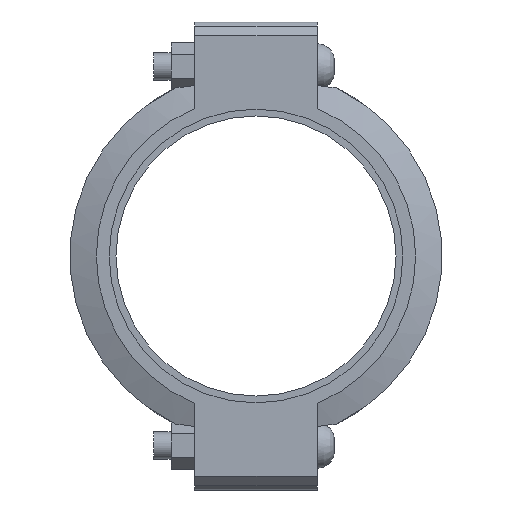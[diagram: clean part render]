
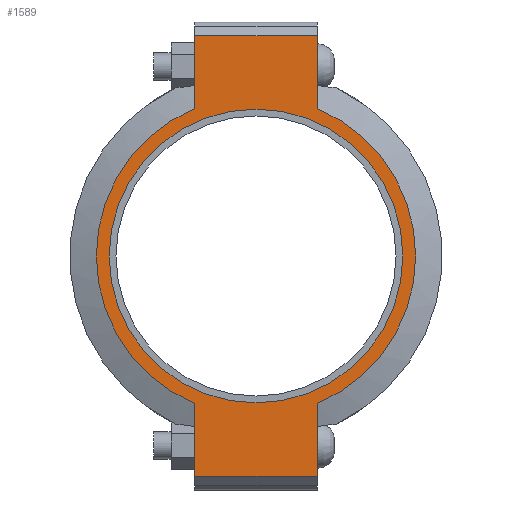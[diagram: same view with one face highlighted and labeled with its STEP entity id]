
A CAD part, left-side view. The second image highlights one B-rep face of the part: STEP entity #1589.
In plain terms, the highlighted planar face has unit normal (-1, 0, 0) as drawn and (0, 0, 1) by its records, which use the part's own axes.
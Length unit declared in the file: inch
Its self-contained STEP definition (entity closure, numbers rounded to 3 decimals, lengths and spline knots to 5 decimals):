
#160=LINE('',#2754,#249);
#171=LINE('',#2805,#260);
#177=LINE('',#2831,#266);
#179=LINE('',#2834,#268);
#180=LINE('',#2839,#269);
#181=LINE('',#2840,#270);
#249=VECTOR('',#2250,0.3937);
#260=VECTOR('',#2281,0.3937);
#266=VECTOR('',#2299,0.3937);
#268=VECTOR('',#2303,0.3937);
#269=VECTOR('',#2308,0.3937);
#270=VECTOR('',#2309,0.3937);
#332=FACE_BOUND('',#509,.T.);
#400=FACE_OUTER_BOUND('',#508,.T.);
#508=EDGE_LOOP('',(#1284,#1285,#1286,#1287,#1288,#1289,#1290,#1291));
#509=EDGE_LOOP('',(#1292));
#591=CIRCLE('',#1826,5.375);
#615=CIRCLE('',#1878,5.845);
#616=CIRCLE('',#1879,5.845);
#687=VERTEX_POINT('',#2580);
#728=VERTEX_POINT('',#2751);
#729=VERTEX_POINT('',#2753);
#746=VERTEX_POINT('',#2800);
#747=VERTEX_POINT('',#2804);
#754=VERTEX_POINT('',#2826);
#755=VERTEX_POINT('',#2830);
#756=VERTEX_POINT('',#2836);
#757=VERTEX_POINT('',#2838);
#851=EDGE_CURVE('',#687,#687,#591,.T.);
#908=EDGE_CURVE('',#729,#728,#160,.T.);
#929=EDGE_CURVE('',#747,#746,#171,.T.);
#940=EDGE_CURVE('',#755,#754,#177,.T.);
#942=EDGE_CURVE('',#755,#728,#179,.T.);
#943=EDGE_CURVE('',#754,#756,#615,.T.);
#944=EDGE_CURVE('',#756,#757,#180,.T.);
#945=EDGE_CURVE('',#747,#757,#181,.T.);
#946=EDGE_CURVE('',#746,#729,#616,.T.);
#1284=ORIENTED_EDGE('',*,*,#942,.F.);
#1285=ORIENTED_EDGE('',*,*,#940,.T.);
#1286=ORIENTED_EDGE('',*,*,#943,.T.);
#1287=ORIENTED_EDGE('',*,*,#944,.T.);
#1288=ORIENTED_EDGE('',*,*,#945,.F.);
#1289=ORIENTED_EDGE('',*,*,#929,.T.);
#1290=ORIENTED_EDGE('',*,*,#946,.T.);
#1291=ORIENTED_EDGE('',*,*,#908,.T.);
#1292=ORIENTED_EDGE('',*,*,#851,.T.);
#1429=PLANE('',#1877);
#1589=ADVANCED_FACE('',(#400,#332),#1429,.T.);
#1826=AXIS2_PLACEMENT_3D('',#2582,#2140,#2141);
#1877=AXIS2_PLACEMENT_3D('',#2835,#2304,#2305);
#1878=AXIS2_PLACEMENT_3D('',#2837,#2306,#2307);
#1879=AXIS2_PLACEMENT_3D('',#2841,#2310,#2311);
#2140=DIRECTION('center_axis',(0.,0.,-1.));
#2141=DIRECTION('ref_axis',(1.,0.,0.));
#2250=DIRECTION('',(1.,0.,0.));
#2281=DIRECTION('',(1.,0.,0.));
#2299=DIRECTION('',(-1.,0.,0.));
#2303=DIRECTION('',(0.,-1.,0.));
#2304=DIRECTION('center_axis',(0.,0.,1.));
#2305=DIRECTION('ref_axis',(-1.,0.,0.));
#2306=DIRECTION('center_axis',(0.,0.,1.));
#2307=DIRECTION('ref_axis',(1.,0.,0.));
#2308=DIRECTION('',(-1.,0.,0.));
#2309=DIRECTION('',(0.,1.,0.));
#2310=DIRECTION('center_axis',(0.,0.,1.));
#2311=DIRECTION('ref_axis',(1.,0.,0.));
#2580=CARTESIAN_POINT('',(-5.375,0.,1.315));
#2582=CARTESIAN_POINT('Origin',(0.,0.,1.315));
#2751=CARTESIAN_POINT('',(8.065,-2.25,1.315));
#2753=CARTESIAN_POINT('',(5.39458,-2.25,1.315));
#2754=CARTESIAN_POINT('',(-8.565,-2.25,1.315));
#2800=CARTESIAN_POINT('',(-5.39458,-2.25,1.315));
#2804=CARTESIAN_POINT('',(-8.065,-2.25,1.315));
#2805=CARTESIAN_POINT('',(-8.565,-2.25,1.315));
#2826=CARTESIAN_POINT('',(5.39458,2.25,1.315));
#2830=CARTESIAN_POINT('',(8.065,2.25,1.315));
#2831=CARTESIAN_POINT('',(8.565,2.25,1.315));
#2834=CARTESIAN_POINT('',(8.065,-1.125,1.315));
#2835=CARTESIAN_POINT('Origin',(0.,0.,
1.315));
#2836=CARTESIAN_POINT('',(-5.39458,2.25,1.315));
#2837=CARTESIAN_POINT('Origin',(0.,0.,1.315));
#2838=CARTESIAN_POINT('',(-8.065,2.25,1.315));
#2839=CARTESIAN_POINT('',(8.565,2.25,1.315));
#2840=CARTESIAN_POINT('',(-8.065,1.125,1.315));
#2841=CARTESIAN_POINT('Origin',(0.,0.,1.315));
